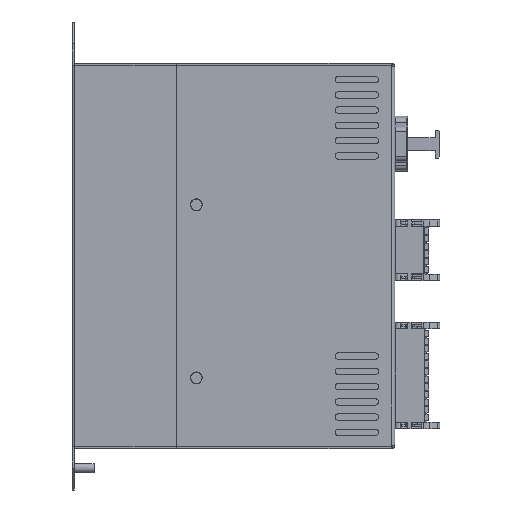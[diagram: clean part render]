
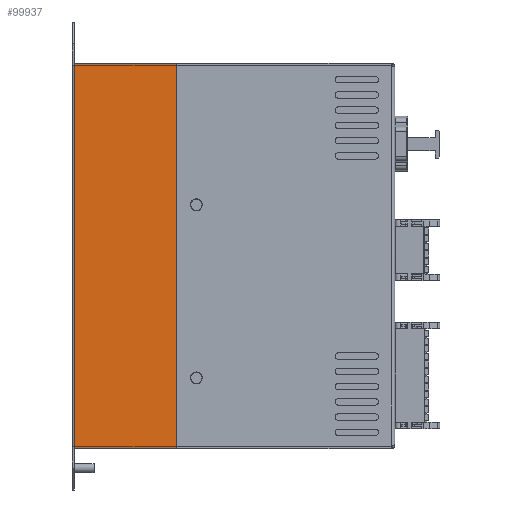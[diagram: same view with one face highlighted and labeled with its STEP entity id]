
A CAD part, left-side view. The second image highlights one B-rep face of the part: STEP entity #99937.
In plain terms, the highlighted planar face has unit normal (-1, 0, 0).
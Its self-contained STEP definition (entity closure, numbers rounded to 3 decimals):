
#327 = DIRECTION ( 'NONE',  ( 0., 0., -1. ) ) ;
#5375 = DIRECTION ( 'NONE',  ( 0., -1., 0. ) ) ;
#5776 = CARTESIAN_POINT ( 'NONE',  ( 1.845, 84.939, -9.407 ) ) ;
#7464 = EDGE_CURVE ( 'NONE', #21320, #64579, #94360, .T. ) ;
#8791 = CARTESIAN_POINT ( 'NONE',  ( 1.845, 84.939, 166.593 ) ) ;
#9566 = LINE ( 'NONE', #37294, #57948 ) ;
#14930 = EDGE_CURVE ( 'NONE', #21320, #76428, #72761, .T. ) ;
#15436 = DIRECTION ( 'NONE',  ( 0., 1., 0. ) ) ;
#17467 = CARTESIAN_POINT ( 'NONE',  ( 1.845, 84.939, 166.593 ) ) ;
#21320 = VERTEX_POINT ( 'NONE', #42973 ) ;
#21408 = VECTOR ( 'NONE', #79695, 1000. ) ;
#21762 = EDGE_CURVE ( 'NONE', #85841, #76428, #9566, .T. ) ;
#24216 = EDGE_LOOP ( 'NONE', ( #46432, #28380, #81812, #41687 ) ) ;
#28380 = ORIENTED_EDGE ( 'NONE', *, *, #21762, .F. ) ;
#36888 = DIRECTION ( 'NONE',  ( 0., 1., 0. ) ) ;
#37294 = CARTESIAN_POINT ( 'NONE',  ( 1.845, 84.939, -10.407 ) ) ;
#41687 = ORIENTED_EDGE ( 'NONE', *, *, #7464, .F. ) ;
#42973 = CARTESIAN_POINT ( 'NONE',  ( 1.845, 131.939, 166.593 ) ) ;
#43208 = EDGE_CURVE ( 'NONE', #64579, #85841, #95869, .T. ) ;
#46432 = ORIENTED_EDGE ( 'NONE', *, *, #14930, .T. ) ;
#47061 = VECTOR ( 'NONE', #327, 1000. ) ;
#56941 = CARTESIAN_POINT ( 'NONE',  ( 1.845, 131.939, -9.407 ) ) ;
#57948 = VECTOR ( 'NONE', #36888, 1000. ) ;
#63263 = PLANE ( 'NONE',  #85972 ) ;
#64579 = VERTEX_POINT ( 'NONE', #17467 ) ;
#68474 = VECTOR ( 'NONE', #5375, 1000. ) ;
#69980 = CARTESIAN_POINT ( 'NONE',  ( 1.845, 84.939, -9.407 ) ) ;
#72761 = LINE ( 'NONE', #56941, #47061 ) ;
#73412 = DIRECTION ( 'NONE',  ( -1., 0., 0. ) ) ;
#76428 = VERTEX_POINT ( 'NONE', #99478 ) ;
#79695 = DIRECTION ( 'NONE',  ( 0., 0., -1. ) ) ;
#81812 = ORIENTED_EDGE ( 'NONE', *, *, #43208, .F. ) ;
#85841 = VERTEX_POINT ( 'NONE', #105545 ) ;
#85972 = AXIS2_PLACEMENT_3D ( 'NONE', #5776, #73412, #15436 ) ;
#94360 = LINE ( 'NONE', #8791, #68474 ) ;
#95869 = LINE ( 'NONE', #69980, #21408 ) ;
#99478 = CARTESIAN_POINT ( 'NONE',  ( 1.845, 131.939, -10.407 ) ) ;
#99937 = ADVANCED_FACE ( 'NONE', ( #115352 ), #63263, .T. ) ;
#105545 = CARTESIAN_POINT ( 'NONE',  ( 1.845, 84.939, -10.407 ) ) ;
#115352 = FACE_OUTER_BOUND ( 'NONE', #24216, .T. ) ;
